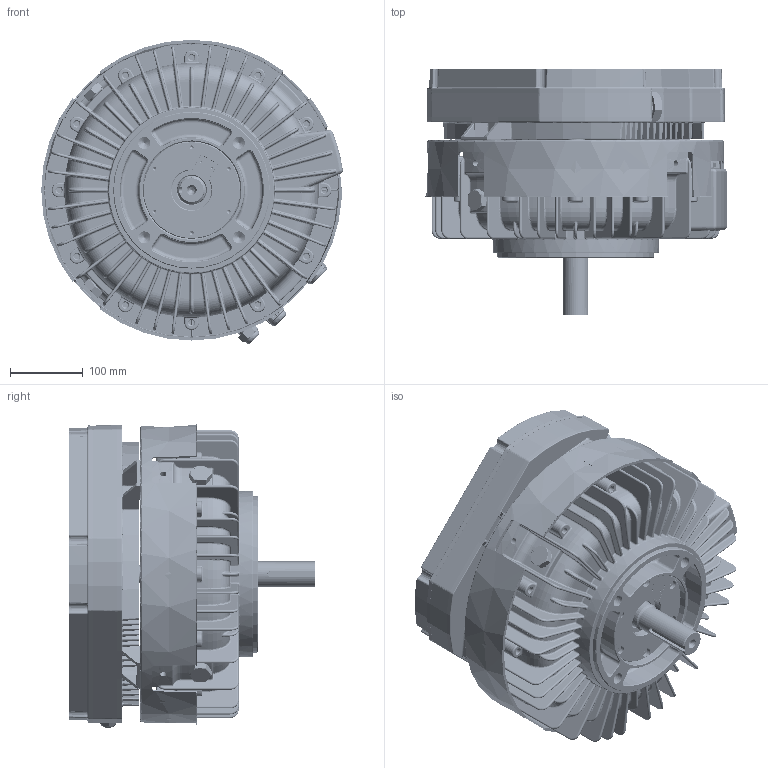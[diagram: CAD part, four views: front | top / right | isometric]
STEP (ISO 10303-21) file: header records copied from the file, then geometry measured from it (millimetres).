
FILE_DESCRIPTION (( 'STEP AP203' ), '1' );
FILE_NAME ('Gutted_Step_7.5_3600_attempt8.STEP', '2024-02-15T15:10:21', ( '' ), ( '' ), 'SwSTEP 2.0', 'SolidWorks 2021', '' );
FILE_SCHEMA (( 'CONFIG_CONTROL_DESIGN' ));
Length unit declared in the file: millimetre
Products named in the file (25): PUR200034; FAB100700; ASM100538; FAB100960; FAB100736; ASM100534; ASM100410; FAB100958; Gutted_Step_7.5_3600_attempt8; FAB100758; PUR372074; FAB100955; PUR200014; ASM100396; FAB100957; PUR200012; PUR200049; PUR200011; LBL500013; FAB100757; ASM100409; ASM100373; ASM100537; PUR200092_PUR200092; ASM100535
Assembly tree (27 placements, depth 4):
  Gutted_Step_7.5_3600_attempt8
    ASM100534
      ASM100537
        FAB100957
      ASM100538
        FAB100960
      ASM100396
        PUR200049
      ASM100535
        FAB100955
      FAB100958  x2
      PUR372074
      PUR200092_PUR200092  x2
    FAB100736
    ASM100373
      ASM100409
        FAB100757
        PUR200011
        PUR200034
        PUR200012
        PUR372074
      PUR200014
      ASM100410
        FAB100758
      FAB100700
      LBL500013
Bounding box: 415.16 x 339.57 x 419.05 mm (x, y, z)
Volume: 7935225.3 mm3; surface area: 2553550.6 mm2
Topology: 26 solids, 33 shells, 10560 faces, 25334 edges, 14817 vertices
Faces by surface type: cylinder 3267, bspline 2441, plane 2189, torus 1491, cone 633, sphere 539
Full cylindrical faces by diameter (mm): 1 x1, 2.3 x1, 2.5 x15, 2.9 x4, 3 x16, 3.2 x1, 3.3 x15, 4 x10, 4.2 x14, 4.5 x8, 5 x8, 5.35 x1, 5.5 x12, 5.97 x3, 6 x3, 6.35 x13, 6.5 x12, 6.909 x13, 7 x12, 7.92 x3, 7.956 x2, 7.96 x4, 8 x33, 8.5 x6, 8.8 x24, 12.5 x1, 12.6 x1, 13 x13, 14 x2, 15.2 x1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
Entity records: 437686 total; most frequent: CARTESIAN_POINT 215179, ORIENTED_EDGE 47218, DIRECTION 44206, EDGE_CURVE 23609, AXIS2_PLACEMENT_3D 18299, VERTEX_POINT 14169, EDGE_LOOP 11486, FACE_OUTER_BOUND 10774
